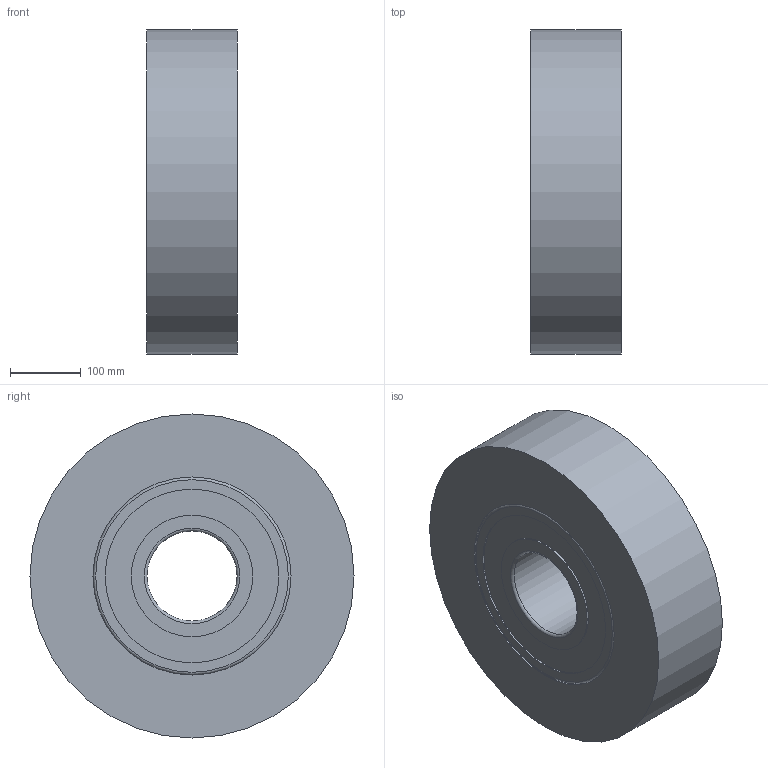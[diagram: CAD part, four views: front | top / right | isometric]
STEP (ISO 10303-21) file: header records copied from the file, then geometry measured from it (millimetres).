
FILE_DESCRIPTION((''),'1');
FILE_NAME('H:/図庫/国内ﾕﾆｯﾄ/ｶﾀﾛｸﾞ/ｺﾞﾑ直巻/ホームページ用ＣＡＤ図面/update用/3', '2017-07-14T08:58:20',(''), (''), 'KCM Version 1.1.1442.0', 'Kubotek KeyCreator', '');
FILE_SCHEMA(('AUTOMOTIVE_DESIGN'));
Length unit declared in the file: inch
Bounding box: 127 x 457.2 x 457.2 mm (x, y, z)
Surface area: 551946 mm2 (no closed solid volume)
Topology: 0 solids, 20 shells, 20 faces, 68 edges, 56 vertices
Faces by surface type: cylinder 8, plane 8, torus 4
Full cylindrical faces by diameter (mm): 127 x1, 171.45 x2, 245.11 x2, 279.4 x2, 457.2 x1
Entity records: 790 total; most frequent: DIRECTION 154, CARTESIAN_POINT 137, ORIENTED_EDGE 80, AXIS2_PLACEMENT_3D 73, EDGE_CURVE 68, VERTEX_POINT 56, CIRCLE 52, EDGE_LOOP 28
